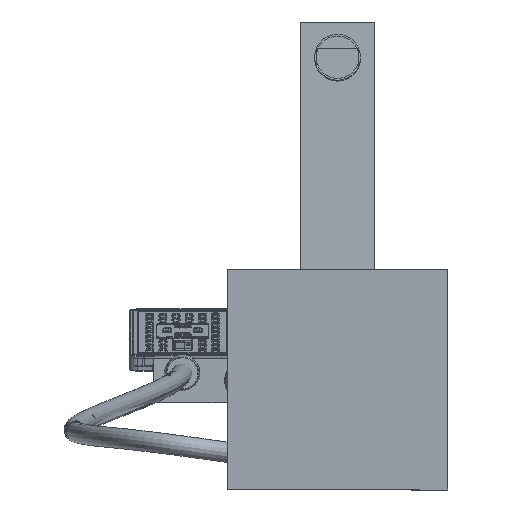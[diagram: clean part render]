
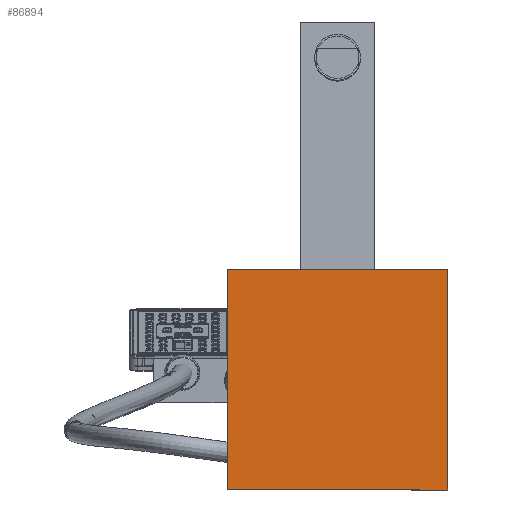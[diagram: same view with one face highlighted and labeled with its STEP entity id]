
A CAD part, front view. The second image highlights one B-rep face of the part: STEP entity #86894.
In plain terms, the highlighted planar face has unit normal (0, -1, 0).
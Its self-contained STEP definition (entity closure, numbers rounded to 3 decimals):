
#3279=PLANE('',#97171);
#10027=FACE_OUTER_BOUND('',#15440,.T.);
#15440=EDGE_LOOP('',(#80120,#80121,#80122,#80123));
#27299=LINE('',#174457,#33808);
#27302=LINE('',#174462,#33811);
#27304=LINE('',#174466,#33813);
#27305=LINE('',#174468,#33814);
#33808=VECTOR('',#124026,10.);
#33811=VECTOR('',#124031,10.);
#33813=VECTOR('',#124035,10.);
#33814=VECTOR('',#124038,10.);
#41756=VERTEX_POINT('',#174454);
#41757=VERTEX_POINT('',#174456);
#41758=VERTEX_POINT('',#174460);
#41759=VERTEX_POINT('',#174464);
#54567=EDGE_CURVE('',#41756,#41757,#27299,.T.);
#54570=EDGE_CURVE('',#41758,#41756,#27302,.T.);
#54572=EDGE_CURVE('',#41759,#41758,#27304,.T.);
#54573=EDGE_CURVE('',#41757,#41759,#27305,.T.);
#80120=ORIENTED_EDGE('',*,*,#54567,.F.);
#80121=ORIENTED_EDGE('',*,*,#54570,.F.);
#80122=ORIENTED_EDGE('',*,*,#54572,.F.);
#80123=ORIENTED_EDGE('',*,*,#54573,.F.);
#86894=ADVANCED_FACE('',(#10027),#3279,.T.);
#97171=AXIS2_PLACEMENT_3D('',#174469,#124039,#124040);
#124026=DIRECTION('',(1.,0.,0.));
#124031=DIRECTION('',(0.,0.,1.));
#124035=DIRECTION('',(-1.,0.,0.));
#124038=DIRECTION('',(0.,0.,-1.));
#124039=DIRECTION('center_axis',(0.,-1.,0.));
#124040=DIRECTION('ref_axis',(-1.,0.,0.));
#174454=CARTESIAN_POINT('',(25.228,-22.665,67.238));
#174456=CARTESIAN_POINT('',(160.226,-22.665,67.238));
#174457=CARTESIAN_POINT('',(28.228,-22.665,67.238));
#174460=CARTESIAN_POINT('',(25.228,-22.665,-67.761));
#174462=CARTESIAN_POINT('',(25.228,-22.665,-64.761));
#174464=CARTESIAN_POINT('',(160.226,-22.665,-67.761));
#174466=CARTESIAN_POINT('',(157.226,-22.665,-67.761));
#174468=CARTESIAN_POINT('',(160.226,-22.665,64.238));
#174469=CARTESIAN_POINT('Origin',(160.226,-22.665,-0.261));
